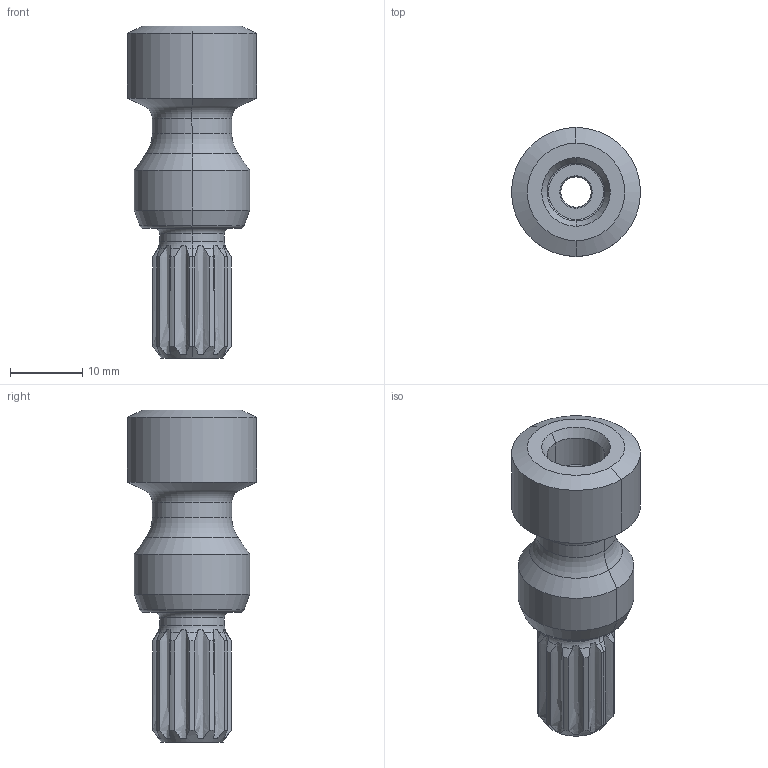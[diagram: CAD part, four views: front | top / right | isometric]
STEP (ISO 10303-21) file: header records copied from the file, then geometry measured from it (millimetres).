
FILE_DESCRIPTION(('3DEXPERIENCE STEP','CAx-IF Rec.Pracs.--- Model Styling and Organization---1.5--- 2016-08-15','CAx-IF Rec.Pracs.---Supplemental Geometry---1.0---2011-11-01','CAx-IF Rec.Pracs.--- Composite Materials ---3.4---2017-06-13','CAx-IF Rec.Pracs.---Tessellated 3D Geometry---1.0---2015-12-17'),'2;1');
FILE_NAME('\\?\E:\02_Customer\Humbel\HUMB.2411\02_Design\02_concept-drawings\250724_Zeichnungen_V2\HU-FS Sonne - Fischer-DTI A.1_Teams.stp','2025-09-10T14:57:29+00:00',('none'),('none'),'3DEXPERIENCE Platform3DEXPERIENCE R2025x HotFix 4.26','3DEXPERIENCE Platform STEP AP242 v3','none');
FILE_SCHEMA(('AP242_MANAGED_MODEL_BASED_3D_ENGINEERING_MIM_LF {1 0 10303 442 1 1 4}'));
Products named in the file (1): SonneA.1
Bounding box: 17.88 x 17.88 x 46 mm (x, y, z)
Volume: 5665.2 mm3; surface area: 3199.4 mm2
Topology: 1 solids, 1 shells, 88 faces, 212 edges, 128 vertices
Faces by surface type: cone 32, cylinder 28, bspline 12, torus 12, plane 4
Entity records: 64476 total; most frequent: CARTESIAN_POINT 62762, ORIENTED_EDGE 424, EDGE_CURVE 212, DIRECTION 204, AXIS2_PLACEMENT_3D 138, VERTEX_POINT 128, CIRCLE 104, EDGE_LOOP 92
